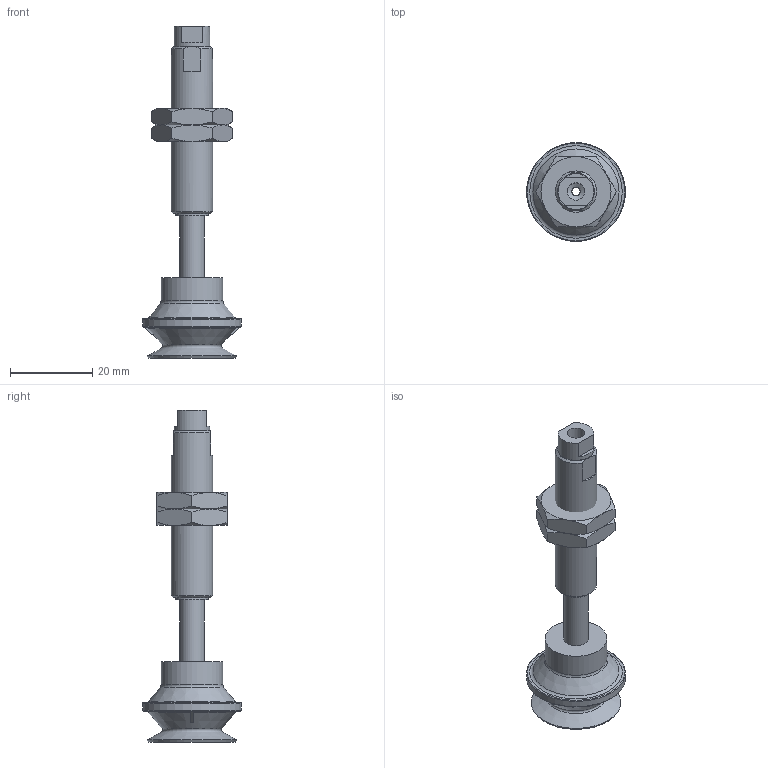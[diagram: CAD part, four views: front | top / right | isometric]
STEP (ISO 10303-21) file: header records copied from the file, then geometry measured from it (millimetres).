
FILE_DESCRIPTION(('STEP AP203'),'1');
FILE_NAME('-LB.stp','2025-10-10T05:40:04',(' '),(' '),'Spatial InterOp 3D',' ',' ');
FILE_SCHEMA(('CONFIG_CONTROL_DESIGN'));
Length unit declared in the file: millimetre
Products named in the file (7): BNABPBTH-20-15-※-LB; NUT; __; BODY; BPBG-20-※; TN-PF-20-M5
Assembly tree (6 placements, depth 2):
  BNABPBTH-20-15-※-LB
    NUT
    NUT
    __
    BODY
    BPBG-20-※
    TN-PF-20-M5
Bounding box: 24 x 24 x 80.5 mm (x, y, z)
Volume: 8572.4 mm3; surface area: 6758.9 mm2
Topology: 6 solids, 6 shells, 123 faces, 266 edges, 160 vertices
Faces by surface type: plane 55, cone 41, cylinder 17, torus 10
Full cylindrical faces by diameter (mm): 2 x1, 2.5 x1, 3 x1, 4.2 x2, 4.6 x1, 5 x1, 6 x1, 8 x1, 8.7 x1, 9 x2, 10 x1, 10.8 x1, 11 x1, 15 x1, 24 x1
Entity records: 3496 total; most frequent: CARTESIAN_POINT 704, DIRECTION 528, ORIENTED_EDGE 434, AXIS2_PLACEMENT_3D 233, EDGE_CURVE 217, EDGE_LOOP 178, VERTEX_POINT 149, FACE_OUTER_BOUND 148
